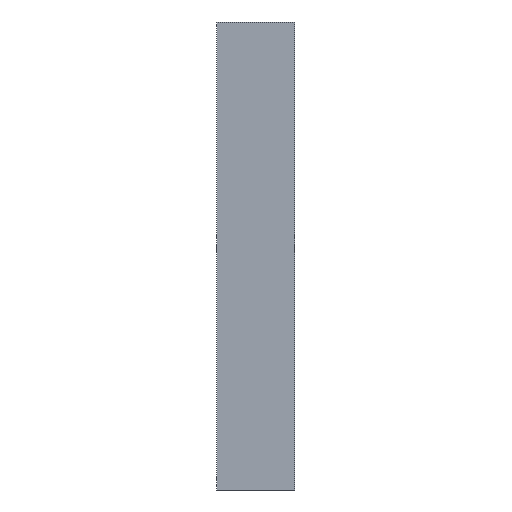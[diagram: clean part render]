
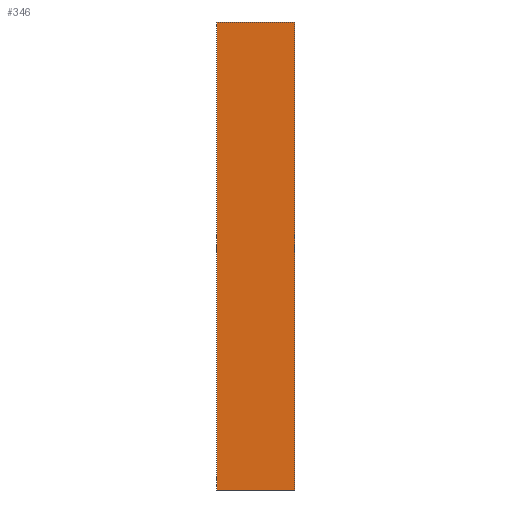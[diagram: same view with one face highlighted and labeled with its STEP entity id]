
A CAD part, front view. The second image highlights one B-rep face of the part: STEP entity #346.
In plain terms, the highlighted planar face has unit normal (0, -1, 0).
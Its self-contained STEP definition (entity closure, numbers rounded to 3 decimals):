
#20 = DIRECTION ( 'NONE',  ( 1., 0., 0. ) ) ;
#22 = ORIENTED_EDGE ( 'NONE', *, *, #2275, .T. ) ;
#32 = LINE ( 'NONE', #216, #2259 ) ;
#108 = CARTESIAN_POINT ( 'NONE',  ( 250., 0., 1500. ) ) ;
#185 = VERTEX_POINT ( 'NONE', #363 ) ;
#216 = CARTESIAN_POINT ( 'NONE',  ( -250., 0., -1500. ) ) ;
#256 = ORIENTED_EDGE ( 'NONE', *, *, #604, .T. ) ;
#262 = VECTOR ( 'NONE', #1535, 1000. ) ;
#287 = AXIS2_PLACEMENT_3D ( 'NONE', #483, #2025, #871 ) ;
#346 = ADVANCED_FACE ( 'NONE', ( #1028 ), #1792, .F. ) ;
#351 = ORIENTED_EDGE ( 'NONE', *, *, #683, .F. ) ;
#363 = CARTESIAN_POINT ( 'NONE',  ( 250., 0., 1500. ) ) ;
#417 = VECTOR ( 'NONE', #800, 1000. ) ;
#483 = CARTESIAN_POINT ( 'NONE',  ( -250., 0., 1500. ) ) ;
#604 = EDGE_CURVE ( 'NONE', #2123, #2049, #1137, .T. ) ;
#626 = LINE ( 'NONE', #639, #417 ) ;
#639 = CARTESIAN_POINT ( 'NONE',  ( -250., 0., 1500. ) ) ;
#683 = EDGE_CURVE ( 'NONE', #2123, #185, #626, .T. ) ;
#726 = CARTESIAN_POINT ( 'NONE',  ( -250., 0., 1500. ) ) ;
#769 = CARTESIAN_POINT ( 'NONE',  ( -250., 0., 1500. ) ) ;
#800 = DIRECTION ( 'NONE',  ( 1., 0., 0. ) ) ;
#870 = DIRECTION ( 'NONE',  ( 0., 0., -1. ) ) ;
#871 = DIRECTION ( 'NONE',  ( -1., 0., 0. ) ) ;
#1028 = FACE_OUTER_BOUND ( 'NONE', #2213, .T. ) ;
#1104 = ORIENTED_EDGE ( 'NONE', *, *, #1118, .F. ) ;
#1118 = EDGE_CURVE ( 'NONE', #185, #2038, #1828, .T. ) ;
#1137 = LINE ( 'NONE', #769, #262 ) ;
#1535 = DIRECTION ( 'NONE',  ( 0., 0., -1. ) ) ;
#1792 = PLANE ( 'NONE',  #287 ) ;
#1828 = LINE ( 'NONE', #108, #2106 ) ;
#2025 = DIRECTION ( 'NONE',  ( 0., 1., 0. ) ) ;
#2038 = VERTEX_POINT ( 'NONE', #2431 ) ;
#2049 = VERTEX_POINT ( 'NONE', #2086 ) ;
#2086 = CARTESIAN_POINT ( 'NONE',  ( -250., 0., -1500. ) ) ;
#2106 = VECTOR ( 'NONE', #870, 1000. ) ;
#2123 = VERTEX_POINT ( 'NONE', #726 ) ;
#2213 = EDGE_LOOP ( 'NONE', ( #22, #1104, #351, #256 ) ) ;
#2259 = VECTOR ( 'NONE', #20, 1000. ) ;
#2275 = EDGE_CURVE ( 'NONE', #2049, #2038, #32, .T. ) ;
#2431 = CARTESIAN_POINT ( 'NONE',  ( 250., 0., -1500. ) ) ;
